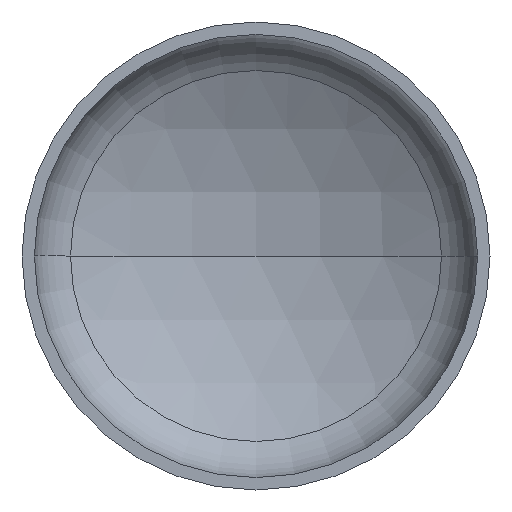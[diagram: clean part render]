
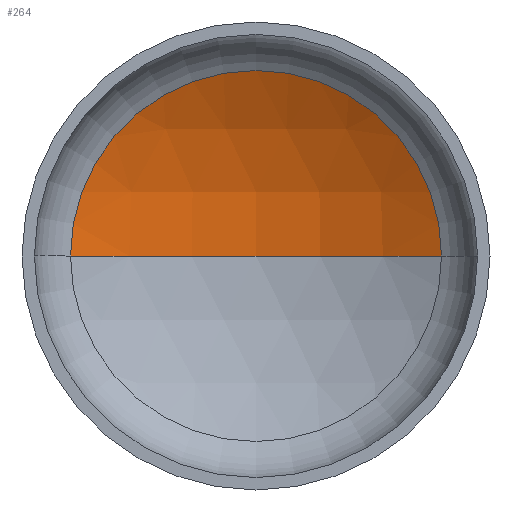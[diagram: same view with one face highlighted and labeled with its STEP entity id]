
A CAD part, front view. The second image highlights one B-rep face of the part: STEP entity #264.
In plain terms, the highlighted spherical face has radius 1360 mm.
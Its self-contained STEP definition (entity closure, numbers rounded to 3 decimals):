
#15 = AXIS2_PLACEMENT_3D ( 'NONE', #242, #402, #193 ) ;
#18 = AXIS2_PLACEMENT_3D ( 'NONE', #159, #160, #198 ) ;
#23 = EDGE_LOOP ( 'NONE', ( #129, #132, #91 ) ) ;
#56 = VERTEX_POINT ( 'NONE', #272 ) ;
#57 = CARTESIAN_POINT ( 'NONE',  ( 0., 544.503, 0. ) ) ;
#59 = AXIS2_PLACEMENT_3D ( 'NONE', #212, #194, #244 ) ;
#91 = ORIENTED_EDGE ( 'NONE', *, *, #331, .T. ) ;
#122 = VERTEX_POINT ( 'NONE', #294 ) ;
#129 = ORIENTED_EDGE ( 'NONE', *, *, #383, .F. ) ;
#132 = ORIENTED_EDGE ( 'NONE', *, *, #340, .T. ) ;
#159 = CARTESIAN_POINT ( 'NONE',  ( 0., 365.845, 0. ) ) ;
#160 = DIRECTION ( 'NONE',  ( 0., -1., 0. ) ) ;
#169 = CIRCLE ( 'NONE', #372, 1360. ) ;
#186 = CIRCLE ( 'NONE', #15, 1360. ) ;
#193 = DIRECTION ( 'NONE',  ( -1., 0., 0. ) ) ;
#194 = DIRECTION ( 'NONE',  ( 0., 0., -1. ) ) ;
#198 = DIRECTION ( 'NONE',  ( 1., 0., 0. ) ) ;
#201 = DIRECTION ( 'NONE',  ( 0., 0., 1. ) ) ;
#212 = CARTESIAN_POINT ( 'NONE',  ( 0., -815.497, 0. ) ) ;
#242 = CARTESIAN_POINT ( 'NONE',  ( 0., -815.497, 0. ) ) ;
#244 = DIRECTION ( 'NONE',  ( -1., 0., 0. ) ) ;
#254 = CIRCLE ( 'NONE', #18, 673.818 ) ;
#264 = ADVANCED_FACE ( 'NONE', ( #332 ), #266, .F. ) ;
#266 = SPHERICAL_SURFACE ( 'NONE', #59, 1360. ) ;
#272 = CARTESIAN_POINT ( 'NONE',  ( 673.818, 365.845, 0. ) ) ;
#294 = CARTESIAN_POINT ( 'NONE',  ( -673.818, 365.845, 0. ) ) ;
#305 = VERTEX_POINT ( 'NONE', #57 ) ;
#331 = EDGE_CURVE ( 'NONE', #56, #122, #254, .T. ) ;
#332 = FACE_OUTER_BOUND ( 'NONE', #23, .T. ) ;
#340 = EDGE_CURVE ( 'NONE', #305, #56, #186, .T. ) ;
#344 = CARTESIAN_POINT ( 'NONE',  ( 0., -815.497, 0. ) ) ;
#371 = DIRECTION ( 'NONE',  ( 1., 0., 0. ) ) ;
#372 = AXIS2_PLACEMENT_3D ( 'NONE', #344, #201, #371 ) ;
#383 = EDGE_CURVE ( 'NONE', #305, #122, #169, .T. ) ;
#402 = DIRECTION ( 'NONE',  ( 0., 0., -1. ) ) ;
